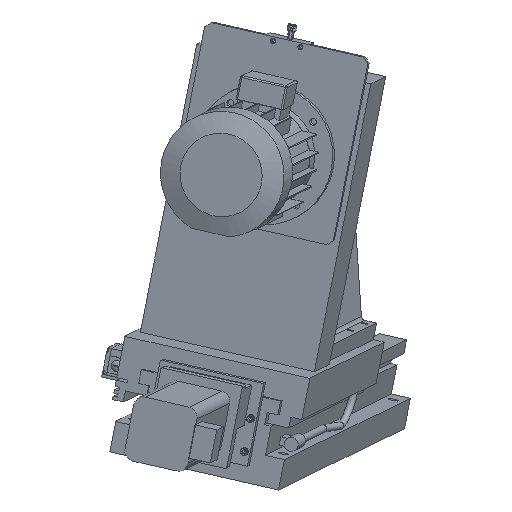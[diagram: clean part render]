
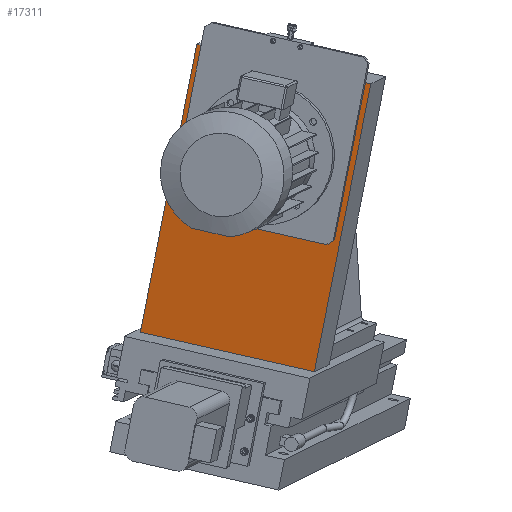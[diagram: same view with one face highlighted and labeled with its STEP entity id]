
A CAD part, front view. The second image highlights one B-rep face of the part: STEP entity #17311.
In plain terms, the highlighted planar face has unit normal (-0.218, -0.97, -0.106).
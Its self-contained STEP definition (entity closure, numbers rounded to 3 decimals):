
#16965=CARTESIAN_POINT('',(69.758,8537.877,8644.755));
#16966=VERTEX_POINT('',#16965);
#16973=CARTESIAN_POINT('',(79.33,8535.964,8642.584));
#16974=VERTEX_POINT('',#16973);
#16975=CARTESIAN_POINT('',(79.33,8535.964,8642.584));
#16976=DIRECTION('',(-0.957,0.191,0.217));
#16977=VECTOR('',#16976,10.);
#16978=LINE('',#16975,#16977);
#16979=EDGE_CURVE('',#16974,#16966,#16978,.T.);
#16981=CARTESIAN_POINT('',(366.495,8478.55,8577.47));
#16982=VERTEX_POINT('',#16981);
#16989=CARTESIAN_POINT('',(376.067,8476.637,8575.299));
#16990=VERTEX_POINT('',#16989);
#16991=CARTESIAN_POINT('',(376.067,8476.637,8575.299));
#16992=DIRECTION('',(-0.957,0.191,0.217));
#16993=VECTOR('',#16992,10.);
#16994=LINE('',#16991,#16993);
#16995=EDGE_CURVE('',#16990,#16982,#16994,.T.);
#17145=CARTESIAN_POINT('',(276.768,8554.441,8068.772));
#17146=VERTEX_POINT('',#17145);
#17147=CARTESIAN_POINT('',(276.768,8554.441,8068.772));
#17148=DIRECTION('',(0.19,-0.149,0.97));
#17149=VECTOR('',#17148,522.);
#17150=LINE('',#17147,#17149);
#17151=EDGE_CURVE('',#17146,#16990,#17150,.T.);
#17190=CARTESIAN_POINT('',(-29.542,8615.681,8138.227));
#17191=VERTEX_POINT('',#17190);
#17192=CARTESIAN_POINT('',(-29.542,8615.681,8138.227));
#17193=DIRECTION('',(0.957,-0.191,-0.217));
#17194=VECTOR('',#17193,320.0);
#17195=LINE('',#17192,#17194);
#17196=EDGE_CURVE('',#17191,#17146,#17195,.T.);
#17219=CARTESIAN_POINT('',(69.758,8537.877,8644.755));
#17220=DIRECTION('',(-0.19,0.149,-0.97));
#17221=VECTOR('',#17220,522.);
#17222=LINE('',#17219,#17221);
#17223=EDGE_CURVE('',#16966,#17191,#17222,.T.);
#17261=CARTESIAN_POINT('',(173.263,8546.159,8356.763));
#17262=DIRECTION('',(0.218,0.97,0.106));
#17263=DIRECTION('',(-0.957,0.191,0.217));
#17264=AXIS2_PLACEMENT_3D('',#17261,#17262,#17263);
#17265=PLANE('',#17264);
#17266=CARTESIAN_POINT('',(312.28,8521.03,8300.917));
#17267=VERTEX_POINT('',#17266);
#17268=CARTESIAN_POINT('',(366.495,8478.55,8577.47));
#17269=DIRECTION('',(-0.19,0.149,-0.97));
#17270=VECTOR('',#17269,285.);
#17271=LINE('',#17268,#17270);
#17272=EDGE_CURVE('',#16982,#17267,#17271,.T.);
#17273=ORIENTED_EDGE('',*,*,#17272,.T.);
#17274=CARTESIAN_POINT('',(300.805,8524.434,8293.384));
#17275=VERTEX_POINT('',#17274);
#17276=CARTESIAN_POINT('',(312.28,8521.03,8300.917));
#17277=DIRECTION('',(-0.811,0.241,-0.533));
#17278=VECTOR('',#17277,14.142);
#17279=LINE('',#17276,#17278);
#17280=EDGE_CURVE('',#17267,#17275,#17279,.T.);
#17281=ORIENTED_EDGE('',*,*,#17280,.T.);
#17282=CARTESIAN_POINT('',(32.785,8578.02,8354.158));
#17283=VERTEX_POINT('',#17282);
#17284=CARTESIAN_POINT('',(300.805,8524.434,8293.384));
#17285=DIRECTION('',(-0.957,0.191,0.217));
#17286=VECTOR('',#17285,280.);
#17287=LINE('',#17284,#17286);
#17288=EDGE_CURVE('',#17275,#17283,#17287,.T.);
#17289=ORIENTED_EDGE('',*,*,#17288,.T.);
#17290=CARTESIAN_POINT('',(25.115,8578.443,8366.032));
#17291=VERTEX_POINT('',#17290);
#17292=CARTESIAN_POINT('',(32.785,8578.02,8354.158));
#17293=DIRECTION('',(-0.542,0.03,0.84));
#17294=VECTOR('',#17293,14.142);
#17295=LINE('',#17292,#17294);
#17296=EDGE_CURVE('',#17283,#17291,#17295,.T.);
#17297=ORIENTED_EDGE('',*,*,#17296,.T.);
#17298=CARTESIAN_POINT('',(25.115,8578.443,8366.032));
#17299=DIRECTION('',(0.19,-0.149,0.97));
#17300=VECTOR('',#17299,285.);
#17301=LINE('',#17298,#17300);
#17302=EDGE_CURVE('',#17291,#16974,#17301,.T.);
#17303=ORIENTED_EDGE('',*,*,#17302,.T.);
#17304=ORIENTED_EDGE('',*,*,#16979,.T.);
#17305=ORIENTED_EDGE('',*,*,#17223,.T.);
#17306=ORIENTED_EDGE('',*,*,#17196,.T.);
#17307=ORIENTED_EDGE('',*,*,#17151,.T.);
#17308=ORIENTED_EDGE('',*,*,#16995,.T.);
#17309=EDGE_LOOP('',(#17273,#17281,#17289,#17297,#17303,#17304,#17305,#17306,#17307,#17308));
#17310=FACE_OUTER_BOUND('',#17309,.T.);
#17311=ADVANCED_FACE('',(#17310),#17265,.F.);
